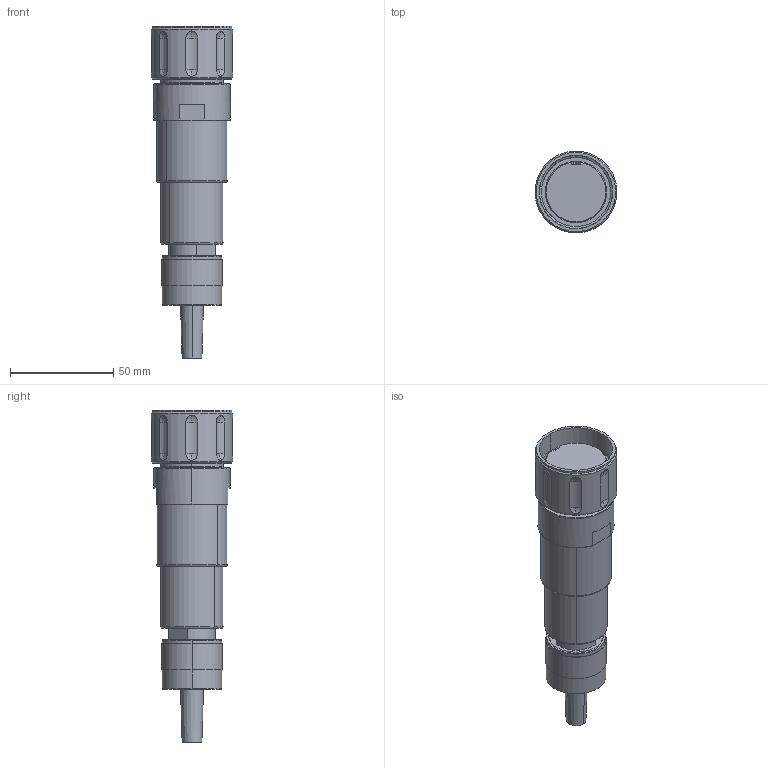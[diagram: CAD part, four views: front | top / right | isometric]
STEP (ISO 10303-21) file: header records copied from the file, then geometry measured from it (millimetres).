
FILE_DESCRIPTION (( 'STEP AP214' ), '1' );
FILE_NAME ('QPLEX3-PMX-XXXX-SXXX.STEP', '2025-04-07T14:57:43', ( '' ), ( '' ), 'SwSTEP 2.0', 'SolidWorks 2024', '' );
FILE_SCHEMA (( 'AUTOMOTIVE_DESIGN' ));
Length unit declared in the file: inch
Products named in the file (1): QPLEX3-PMX-XXXX-SXXX
Bounding box: 39.62 x 39.62 x 160.83 mm (x, y, z)
Volume: 110066.7 mm3; surface area: 22555.6 mm2
Topology: 1 solids, 1 shells, 140 faces, 324 edges, 207 vertices
Faces by surface type: cylinder 47, sphere 32, plane 29, cone 15, torus 13, bspline 4
Entity records: 5251 total; most frequent: CARTESIAN_POINT 2047, DIRECTION 693, ORIENTED_EDGE 648, EDGE_CURVE 324, AXIS2_PLACEMENT_3D 297, VERTEX_POINT 207, EDGE_LOOP 161, CIRCLE 160
